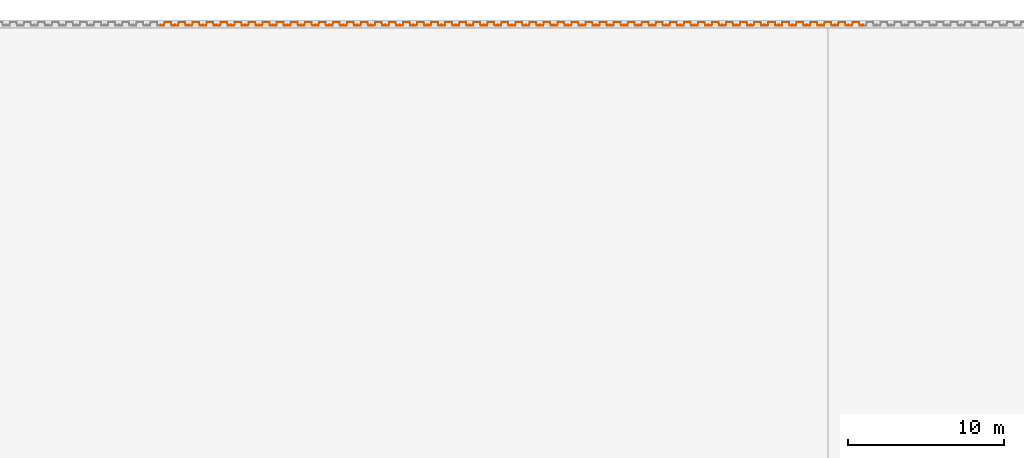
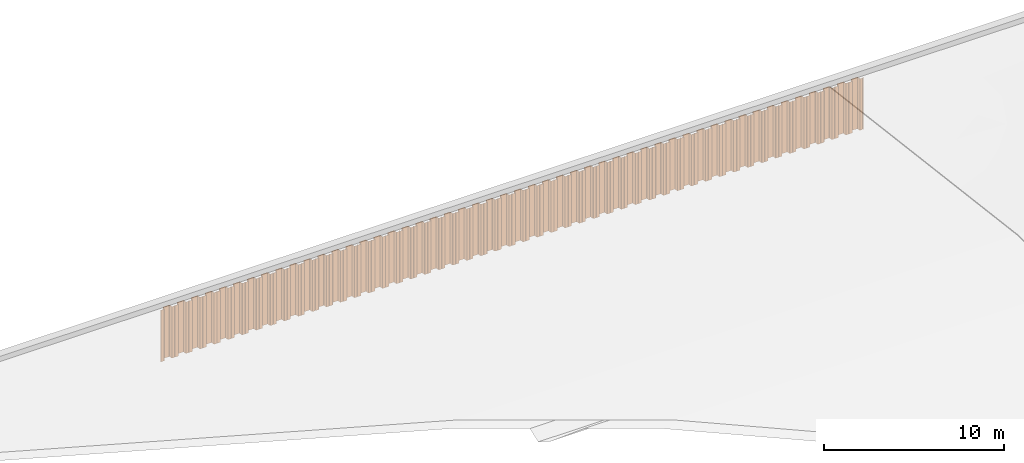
# One storey, part 20 of 32: 50 proxies.
"""IFC2X3 building model written with IfcOpenShell, lengths in millimetres."""

from ifc_helpers import new_model, entity, si_unit, converted_unit, derived_unit, direction, frame, frame_2d, origin, place, context, subcontext, project, spatial, polyline, circle_curve, parameter, trimmed, segment, composite_curve, outline, extrude, source, transform, mapped, type_object, type_shapes, element, save


model = new_model("IFC2X3")

# Units and contexts
model_context = context("Model", 3, precision=0.01, world=origin(), true_north=direction((6.12303176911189e-17, 1.0)))
body_context = subcontext(model_context, "Body", "Model", "MODEL_VIEW")
ifc_project = project(units=[si_unit("LENGTHUNIT", "METRE", prefix="MILLI"), si_unit("AREAUNIT", "SQUARE_METRE"), si_unit("VOLUMEUNIT", "CUBIC_METRE"), converted_unit("PLANEANGLEUNIT", "DEGREE", entity("IfcRatioMeasure", 0.0174532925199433), si_unit("PLANEANGLEUNIT", "RADIAN"), dimensions=[0, 0, 0, 0, 0, 0, 0]), si_unit("MASSUNIT", "GRAM", prefix="KILO"), derived_unit("MASSDENSITYUNIT", [(si_unit("MASSUNIT", "GRAM", prefix="KILO"), 1), (si_unit("LENGTHUNIT", "METRE"), -3)]), si_unit("TIMEUNIT", "SECOND"), si_unit("FREQUENCYUNIT", "HERTZ"), si_unit("THERMODYNAMICTEMPERATUREUNIT", "DEGREE_CELSIUS"), derived_unit("THERMALTRANSMITTANCEUNIT", [(si_unit("MASSUNIT", "GRAM", prefix="KILO"), 1), (si_unit("THERMODYNAMICTEMPERATUREUNIT", "KELVIN"), -1), (si_unit("TIMEUNIT", "SECOND"), -3)]), derived_unit("VOLUMETRICFLOWRATEUNIT", [(si_unit("LENGTHUNIT", "METRE"), 3), (si_unit("TIMEUNIT", "SECOND"), -1)]), si_unit("ELECTRICCURRENTUNIT", "AMPERE"), si_unit("ELECTRICVOLTAGEUNIT", "VOLT"), si_unit("POWERUNIT", "WATT"), si_unit("FORCEUNIT", "NEWTON", prefix="KILO"), si_unit("ILLUMINANCEUNIT", "LUX"), si_unit("LUMINOUSFLUXUNIT", "LUMEN"), si_unit("LUMINOUSINTENSITYUNIT", "CANDELA"), derived_unit("USERDEFINED", [(si_unit("MASSUNIT", "GRAM", prefix="KILO"), -1), (si_unit("LENGTHUNIT", "METRE"), -2), (si_unit("TIMEUNIT", "SECOND"), 3), (si_unit("LUMINOUSFLUXUNIT", "LUMEN"), 1)]), derived_unit("LINEARVELOCITYUNIT", [(si_unit("LENGTHUNIT", "METRE"), 1), (si_unit("TIMEUNIT", "SECOND"), -1)]), si_unit("PRESSUREUNIT", "PASCAL"), derived_unit("USERDEFINED", [(si_unit("LENGTHUNIT", "METRE"), -2), (si_unit("MASSUNIT", "GRAM", prefix="KILO"), 1), (si_unit("TIMEUNIT", "SECOND"), -2)])], contexts=[model_context])

# Site, building, storey
site_placement = place(None, origin())
site = spatial("IfcSite", under=ifc_project, at=site_placement, Name="Default", CompositionType="ELEMENT")
building_placement = place(site_placement, origin())
building = spatial("IfcBuilding", under=site, at=building_placement, CompositionType="ELEMENT")
storey_placement = place(building_placement, origin())
storey = spatial("IfcBuildingStorey", under=building, at=storey_placement, Name="矢板", CompositionType="ELEMENT", Elevation=0.0)

# Proxies
building_element_proxy_type = type_object("IfcBuildingElementProxyType", Name="鋼矢板10H型", PredefinedType="NOTDEFINED")
shared_shape = source(origin(), body_context, "Body", "SweptSolid", [
    extrude(outline(composite_curve([segment(trimmed(circle_curve(frame_2d((85.3662976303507, 306.644432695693), x_axis=(0.422618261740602, 0.906307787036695)), 13.885714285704), [parameter(24.9999999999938)], [parameter(90.0000000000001)], True, "PARAMETER"), True, "CONTINUOUS"), segment(polyline([(72.7815666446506, 312.512789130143), (9.8129512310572, 177.476157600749)]), True, "CONTINUOUS"), segment(trimmed(circle_curve(frame_2d((29.3891994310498, 168.347603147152), x_axis=(0.422618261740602, 0.906307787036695)), 21.6), [parameter(90.0000000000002)], [parameter(168.69006752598)], True, "PARAMETER"), True, "CONTINUOUS"), segment(polyline([(16.598697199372, 150.941769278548), (175.329723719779, 34.2998683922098)]), True, "CONTINUOUS"), segment(trimmed(circle_curve(frame_2d((168.93447260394, 25.596951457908), x_axis=(0.422618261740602, 0.906307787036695)), 10.7999999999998), [parameter(270.0)], [parameter(348.690067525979)], True, "PARAMETER"), False, "CONTINUOUS"), segment(polyline([(178.722596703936, 21.0326742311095), (18.2974003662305, -323.000269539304)]), True, "CONTINUOUS"), segment(trimmed(circle_curve(frame_2d((8.50927626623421, -318.435992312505), x_axis=(0.422618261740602, 0.906307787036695)), 10.8), [parameter(191.30993247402)], [parameter(269.999999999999)], True, "PARAMETER"), False, "CONTINUOUS"), segment(polyline([(5.95324328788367, -328.929166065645), (-185.429973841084, -282.310113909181)]), True, "CONTINUOUS"), segment(trimmed(circle_curve(frame_2d((-190.542039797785, -303.296461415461), x_axis=(0.422618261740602, 0.906307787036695)), 21.6000000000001), [parameter(11.3099324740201)], [parameter(90.0000000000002)], True, "PARAMETER"), True, "CONTINUOUS"), segment(polyline([(-210.118287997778, -294.167906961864), (-290.330886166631, -466.184378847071)]), True, "CONTINUOUS"), segment(trimmed(circle_curve(frame_2d((-270.754637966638, -475.312933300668), x_axis=(0.422618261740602, 0.906307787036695)), 21.6), [parameter(90.0000000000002)], [parameter(269.999999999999)], True, "PARAMETER"), True, "CONTINUOUS"), segment(polyline([(-251.178389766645, -484.441487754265), (-249.065298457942, -479.909948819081)]), True, "CONTINUOUS"), segment(polyline([(-249.065298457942, -479.909948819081), (-258.853422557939, -475.345671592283)]), True, "CONTINUOUS"), segment(polyline([(-258.853422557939, -475.345671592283), (-260.966513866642, -479.877210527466)]), True, "CONTINUOUS"), segment(trimmed(circle_curve(frame_2d((-270.754637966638, -475.312933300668), x_axis=(0.422618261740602, 0.906307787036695)), 10.8), [parameter(90.0000000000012)], [parameter(270.0)], True, "PARAMETER"), False, "CONTINUOUS"), segment(polyline([(-280.542762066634, -470.748656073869), (-200.330163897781, -298.732184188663)]), True, "CONTINUOUS"), segment(trimmed(circle_curve(frame_2d((-190.542039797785, -303.296461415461), x_axis=(0.422618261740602, 0.906307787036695)), 10.8), [parameter(11.3099324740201)], [parameter(89.9999999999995)], True, "PARAMETER"), False, "CONTINUOUS"), segment(polyline([(-187.986006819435, -292.803287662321), (3.39721030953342, -339.422339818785)]), True, "CONTINUOUS"), segment(trimmed(circle_curve(frame_2d((8.50927626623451, -318.435992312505), x_axis=(0.422618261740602, 0.906307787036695)), 21.6), [parameter(191.30993247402)], [parameter(270.0)], True, "PARAMETER"), True, "CONTINUOUS"), segment(polyline([(28.0855244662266, -327.564546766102), (188.510720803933, 16.4683970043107)]), True, "CONTINUOUS"), segment(trimmed(circle_curve(frame_2d((168.93447260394, 25.5969514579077), x_axis=(0.422618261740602, 0.906307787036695)), 21.6), [parameter(270.0)], [parameter(348.69006752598)], True, "PARAMETER"), True, "CONTINUOUS"), segment(polyline([(181.724974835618, 43.0027853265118), (22.9939483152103, 159.644686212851)]), True, "CONTINUOUS"), segment(trimmed(circle_curve(frame_2d((29.3891994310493, 168.347603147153), x_axis=(0.422618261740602, 0.906307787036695)), 10.7999999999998), [parameter(89.9999999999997)], [parameter(168.690067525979)], True, "PARAMETER"), False, "CONTINUOUS"), segment(polyline([(19.6010753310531, 172.911880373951), (82.5696907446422, 307.948511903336)]), True, "CONTINUOUS"), segment(trimmed(circle_curve(frame_2d((85.3662976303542, 306.64443269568), x_axis=(0.422618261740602, 0.906307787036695)), 3.08571428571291), [parameter(25.0000000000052)], [parameter(90.0000000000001)], True, "PARAMETER"), False, "CONTINUOUS"), segment(polyline([(85.3662976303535, 309.730146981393), (122.220231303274, 309.730146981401)]), True, "CONTINUOUS"), segment(trimmed(circle_curve(frame_2d((122.220231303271, 323.615861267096), x_axis=(0.422618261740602, 0.906307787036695)), 13.8857142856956), [parameter(205.000000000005)], [parameter(270.0)], True, "PARAMETER"), True, "CONTINUOUS"), segment(polyline([(134.804962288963, 317.747504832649), (141.079261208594, 331.202782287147)]), True, "CONTINUOUS"), segment(trimmed(circle_curve(frame_2d((121.503013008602, 340.331336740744), x_axis=(0.422618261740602, 0.906307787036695)), 21.6), [parameter(270.0)], [parameter(90.0000000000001)], True, "PARAMETER"), True, "CONTINUOUS"), segment(polyline([(101.926764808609, 349.459891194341), (99.8136734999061, 344.928352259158)]), True, "CONTINUOUS"), segment(polyline([(99.8136734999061, 344.928352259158), (109.601797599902, 340.364075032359)]), True, "CONTINUOUS"), segment(polyline([(109.601797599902, 340.364075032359), (111.714888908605, 344.895613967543)]), True, "CONTINUOUS"), segment(trimmed(circle_curve(frame_2d((121.503013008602, 340.331336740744), x_axis=(0.422618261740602, 0.906307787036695)), 10.8), [parameter(270.0)], [parameter(89.9999999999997)], True, "PARAMETER"), False, "CONTINUOUS"), segment(polyline([(131.291137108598, 335.767059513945), (125.01683818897, 322.311782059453)]), True, "CONTINUOUS"), segment(trimmed(circle_curve(frame_2d((122.220231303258, 323.615861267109), x_axis=(0.422618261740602, 0.906307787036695)), 3.08571428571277), [parameter(204.999999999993)], [parameter(270.0)], True, "PARAMETER"), False, "CONTINUOUS"), segment(polyline([(122.220231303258, 320.530146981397), (85.3662976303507, 320.530146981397)]), True, "CONTINUOUS")], self_intersect=False)), frame((95.205667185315, -48.8888888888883, -3500.0), z_axis=(0.0, 0.0, -1.0), x_axis=(0.4226182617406, 0.906307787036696, 0.0)), (0.0, 0.0, -1.0), 3500.0),
])
type_shapes(building_element_proxy_type, [shared_shape])
for number, where in (
    (1, (106897.5, 28702.0, 7600.0)),
    (2, (105997.5, 28702.0, 7600.0)),
    (3, (105097.5, 28702.0, 7600.0)),
    (4, (104197.5, 28702.0, 7600.0)),
    (5, (103297.5, 28702.0, 7600.0)),
    (6, (102397.5, 28702.0, 7600.0)),
    (7, (101497.5, 28702.0, 7600.0)),
    (8, (100597.5, 28702.0, 7600.0)),
    (9, (99697.4999999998, 28702.0, 7600.0)),
    (10, (98797.4999999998, 28702.0, 7600.0)),
    (11, (97897.4999999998, 28702.0, 7600.0)),
    (12, (96997.4999999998, 28702.0, 7600.0)),
    (13, (96097.4999999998, 28702.0, 7600.0)),
    (14, (95197.4999999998, 28702.0, 7600.0)),
    (15, (94297.4999999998, 28702.0, 7600.0)),
    (16, (93397.4999999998, 28702.0, 7600.0)),
    (17, (92497.4999999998, 28702.0, 7600.0)),
    (18, (91597.4999999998, 28702.0, 7600.0)),
    (19, (90697.4999999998, 28702.0, 7600.0)),
    (20, (89797.4999999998, 28702.0, 7600.0)),
    (21, (88897.4999999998, 28702.0, 7600.0)),
    (22, (87997.4999999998, 28702.0, 7600.0)),
    (23, (87097.4999999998, 28702.0, 7600.0)),
    (24, (86197.4999999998, 28702.0, 7600.0)),
    (25, (85297.4999999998, 28702.0, 7600.0)),
    (26, (84397.4999999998, 28702.0, 7600.0)),
    (27, (83497.4999999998, 28702.0, 7600.0)),
    (28, (82597.4999999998, 28702.0, 7600.0)),
    (29, (81697.4999999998, 28702.0, 7600.0)),
    (30, (80797.4999999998, 28702.0, 7600.0)),
    (31, (79897.4999999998, 28702.0, 7600.0)),
    (32, (78997.4999999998, 28702.0, 7600.0)),
    (33, (78097.4999999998, 28702.0, 7600.0)),
    (34, (77197.4999999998, 28702.0, 7600.0)),
    (35, (76297.4999999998, 28702.0, 7600.0)),
    (36, (75397.4999999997, 28702.0, 7600.0)),
    (37, (74497.4999999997, 28702.0, 7600.0)),
    (38, (73597.4999999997, 28702.0, 7600.0)),
    (39, (72697.4999999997, 28702.0, 7600.0)),
    (40, (71797.4999999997, 28702.0, 7600.0)),
    (41, (70897.4999999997, 28702.0, 7600.0)),
    (42, (69997.4999999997, 28702.0, 7600.0)),
    (43, (69097.4999999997, 28702.0, 7600.0)),
    (44, (68197.4999999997, 28702.0, 7600.0)),
    (45, (67297.4999999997, 28702.0, 7600.0)),
    (46, (66397.4999999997, 28702.0, 7600.0)),
    (47, (65497.4999999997, 28702.0, 7600.0)),
    (48, (64597.4999999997, 28702.0, 7600.0)),
    (49, (63697.4999999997, 28702.0, 7600.0)),
    (50, (62797.4999999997, 28702.0, 7600.0)),
):
    element("IfcBuildingElementProxy", number, at=place(storey_placement, frame(where)), inside=storey, type_object=building_element_proxy_type, Name="鋼矢板10H型:鋼矢板10H型", ObjectType="鋼矢板10H型:鋼矢板10H型", context=body_context, shape_type="MappedRepresentation", body=[
        mapped(shared_shape, transform((0.0, 0.0, 0.0), scale=1.0)),
    ])

save(model, "model.ifc")
